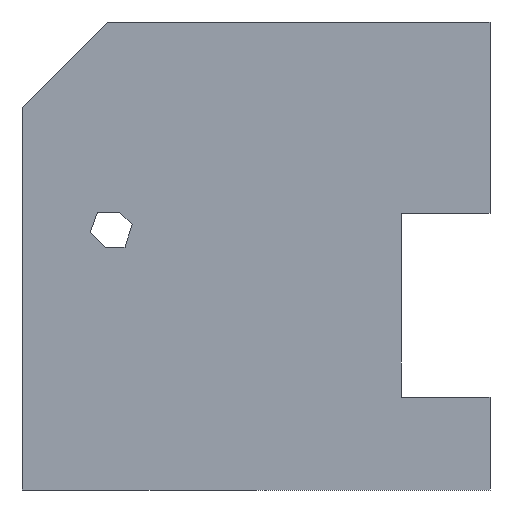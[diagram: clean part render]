
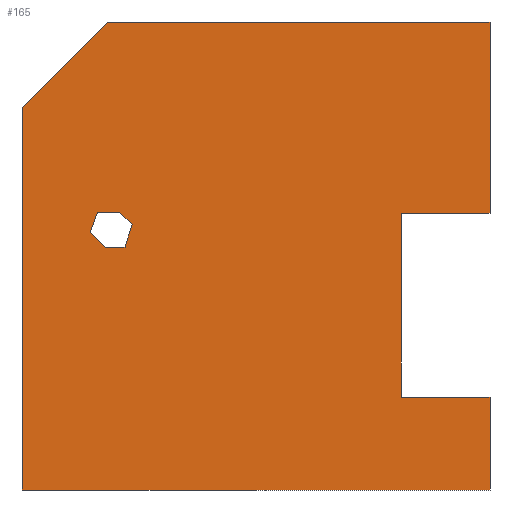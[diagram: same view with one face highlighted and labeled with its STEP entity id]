
A CAD part, left-side view. The second image highlights one B-rep face of the part: STEP entity #165.
In plain terms, the highlighted planar face has unit normal (-1, 0, 0).
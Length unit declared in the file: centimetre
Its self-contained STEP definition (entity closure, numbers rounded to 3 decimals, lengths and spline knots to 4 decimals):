
#12 = VECTOR ( 'NONE', #123, 100. ) ;
#13 = LINE ( 'NONE', #307, #256 ) ;
#14 = VERTEX_POINT ( 'NONE', #380 ) ;
#15 = VERTEX_POINT ( 'NONE', #555 ) ;
#27 = CARTESIAN_POINT ( 'NONE',  ( 0., 0., 590.9953 ) ) ;
#30 = CARTESIAN_POINT ( 'NONE',  ( 0., 0., 1000. ) ) ;
#37 = VECTOR ( 'NONE', #74, 100. ) ;
#45 = CARTESIAN_POINT ( 'NONE',  ( 0., 779.8998, 518.5298 ) ) ;
#53 = VECTOR ( 'NONE', #489, 100. ) ;
#55 = DIRECTION ( 'NONE',  ( 0., 0., -1. ) ) ;
#60 = VERTEX_POINT ( 'NONE', #27 ) ;
#61 = VECTOR ( 'NONE', #597, 100. ) ;
#65 = LINE ( 'NONE', #78, #584 ) ;
#74 = DIRECTION ( 'NONE',  ( 0., -1., 0. ) ) ;
#76 = EDGE_CURVE ( 'NONE', #14, #95, #305, .T. ) ;
#78 = CARTESIAN_POINT ( 'NONE',  ( 0., 1000., 1000. ) ) ;
#79 = VERTEX_POINT ( 'NONE', #569 ) ;
#80 = EDGE_CURVE ( 'NONE', #573, #536, #448, .T. ) ;
#90 = CARTESIAN_POINT ( 'NONE',  ( 0., 822.1729, 518.5298 ) ) ;
#95 = VERTEX_POINT ( 'NONE', #464 ) ;
#97 = DIRECTION ( 'NONE',  ( 0., 1., 0. ) ) ;
#106 = VERTEX_POINT ( 'NONE', #206 ) ;
#108 = ORIENTED_EDGE ( 'NONE', *, *, #173, .F. ) ;
#111 = DIRECTION ( 'NONE',  ( 0., 0.338, -0.941 ) ) ;
#118 = LINE ( 'NONE', #360, #292 ) ;
#119 = EDGE_CURVE ( 'NONE', #106, #289, #200, .T. ) ;
#123 = DIRECTION ( 'NONE',  ( 0., -0.707, -0.707 ) ) ;
#128 = CARTESIAN_POINT ( 'NONE',  ( 0., 764.4438, 566.9466 ) ) ;
#132 = DIRECTION ( 'NONE',  ( 0., -0.304, 0.953 ) ) ;
#133 = CARTESIAN_POINT ( 'NONE',  ( 0., 817.1879, 1000. ) ) ;
#137 = LINE ( 'NONE', #281, #460 ) ;
#141 = CARTESIAN_POINT ( 'NONE',  ( 0., 822.1729, 518.5298 ) ) ;
#145 = ORIENTED_EDGE ( 'NONE', *, *, #76, .F. ) ;
#148 = VERTEX_POINT ( 'NONE', #539 ) ;
#151 = ORIENTED_EDGE ( 'NONE', *, *, #268, .F. ) ;
#153 = CARTESIAN_POINT ( 'NONE',  ( 0., 764.4438, 566.9466 ) ) ;
#160 = DIRECTION ( 'NONE',  ( 0., 0.707, -0.707 ) ) ;
#165 = ADVANCED_FACE ( 'NONE', ( #601, #190 ), #335, .F. ) ;
#173 = EDGE_CURVE ( 'NONE', #295, #302, #242, .T. ) ;
#183 = ORIENTED_EDGE ( 'NONE', *, *, #119, .F. ) ;
#184 = DIRECTION ( 'NONE',  ( 1., 0., 0. ) ) ;
#188 = LINE ( 'NONE', #90, #37 ) ;
#190 = FACE_OUTER_BOUND ( 'NONE', #512, .T. ) ;
#195 = VECTOR ( 'NONE', #277, 100. ) ;
#198 = LINE ( 'NONE', #391, #532 ) ;
#200 = LINE ( 'NONE', #357, #12 ) ;
#206 = CARTESIAN_POINT ( 'NONE',  ( 0., 854.3667, 550.7235 ) ) ;
#216 = EDGE_CURVE ( 'NONE', #79, #148, #65, .T. ) ;
#224 = EDGE_CURVE ( 'NONE', #600, #14, #118, .T. ) ;
#236 = CARTESIAN_POINT ( 'NONE',  ( 0., 0., 1000. ) ) ;
#239 = CARTESIAN_POINT ( 'NONE',  ( 0., 838.9107, 593.717 ) ) ;
#242 = LINE ( 'NONE', #465, #475 ) ;
#256 = VECTOR ( 'NONE', #111, 100. ) ;
#268 = EDGE_CURVE ( 'NONE', #302, #60, #409, .T. ) ;
#275 = DIRECTION ( 'NONE',  ( 0., -1., 0. ) ) ;
#277 = DIRECTION ( 'NONE',  ( 0., 1., 0. ) ) ;
#279 = CARTESIAN_POINT ( 'NONE',  ( 0., 1000., 1000. ) ) ;
#281 = CARTESIAN_POINT ( 'NONE',  ( 0., 0., 590.9953 ) ) ;
#285 = VECTOR ( 'NONE', #371, 100. ) ;
#289 = VERTEX_POINT ( 'NONE', #141 ) ;
#292 = VECTOR ( 'NONE', #500, 100. ) ;
#295 = VERTEX_POINT ( 'NONE', #133 ) ;
#300 = EDGE_CURVE ( 'NONE', #15, #573, #544, .T. ) ;
#302 = VERTEX_POINT ( 'NONE', #236 ) ;
#305 = LINE ( 'NONE', #351, #592 ) ;
#307 = CARTESIAN_POINT ( 'NONE',  ( 0., 838.9107, 593.717 ) ) ;
#313 = EDGE_CURVE ( 'NONE', #60, #600, #137, .T. ) ;
#329 = CARTESIAN_POINT ( 'NONE',  ( 0., 0., 1000. ) ) ;
#332 = VERTEX_POINT ( 'NONE', #239 ) ;
#333 = EDGE_CURVE ( 'NONE', #536, #332, #472, .T. ) ;
#335 = PLANE ( 'NONE',  #390 ) ;
#336 = EDGE_LOOP ( 'NONE', ( #479, #406, #432, #346, #450, #183 ) ) ;
#346 = ORIENTED_EDGE ( 'NONE', *, *, #300, .F. ) ;
#347 = ORIENTED_EDGE ( 'NONE', *, *, #593, .F. ) ;
#351 = CARTESIAN_POINT ( 'NONE',  ( 0., 0., 198.4261 ) ) ;
#357 = CARTESIAN_POINT ( 'NONE',  ( 0., 854.3667, 550.7235 ) ) ;
#360 = CARTESIAN_POINT ( 'NONE',  ( 0., 189.9173, 198.4261 ) ) ;
#370 = VECTOR ( 'NONE', #132, 100. ) ;
#371 = DIRECTION ( 'NONE',  ( 0., -1., 0. ) ) ;
#380 = CARTESIAN_POINT ( 'NONE',  ( 0., 189.9173, 198.4261 ) ) ;
#385 = ORIENTED_EDGE ( 'NONE', *, *, #388, .T. ) ;
#388 = EDGE_CURVE ( 'NONE', #148, #531, #468, .T. ) ;
#390 = AXIS2_PLACEMENT_3D ( 'NONE', #279, #184, #55 ) ;
#391 = CARTESIAN_POINT ( 'NONE',  ( 0., 817.1879, 1000. ) ) ;
#393 = CARTESIAN_POINT ( 'NONE',  ( 0., 0., 0. ) ) ;
#394 = DIRECTION ( 'NONE',  ( 0., -1., 0. ) ) ;
#400 = EDGE_CURVE ( 'NONE', #289, #15, #188, .T. ) ;
#405 = DIRECTION ( 'NONE',  ( 0., 0., -1. ) ) ;
#406 = ORIENTED_EDGE ( 'NONE', *, *, #333, .F. ) ;
#407 = LINE ( 'NONE', #30, #543 ) ;
#409 = LINE ( 'NONE', #329, #61 ) ;
#410 = CARTESIAN_POINT ( 'NONE',  ( 0., 189.9173, 590.9953 ) ) ;
#413 = DIRECTION ( 'NONE',  ( 0., 0., -1. ) ) ;
#430 = ORIENTED_EDGE ( 'NONE', *, *, #224, .F. ) ;
#431 = CARTESIAN_POINT ( 'NONE',  ( 0., 791.2143, 593.717 ) ) ;
#432 = ORIENTED_EDGE ( 'NONE', *, *, #80, .F. ) ;
#436 = CARTESIAN_POINT ( 'NONE',  ( 0., 791.2143, 593.717 ) ) ;
#445 = EDGE_CURVE ( 'NONE', #332, #106, #13, .T. ) ;
#448 = LINE ( 'NONE', #153, #53 ) ;
#450 = ORIENTED_EDGE ( 'NONE', *, *, #400, .F. ) ;
#460 = VECTOR ( 'NONE', #97, 100. ) ;
#464 = CARTESIAN_POINT ( 'NONE',  ( 0., 0., 198.4261 ) ) ;
#465 = CARTESIAN_POINT ( 'NONE',  ( 0., 1000., 1000. ) ) ;
#468 = LINE ( 'NONE', #603, #285 ) ;
#472 = LINE ( 'NONE', #431, #195 ) ;
#475 = VECTOR ( 'NONE', #275, 100. ) ;
#477 = ORIENTED_EDGE ( 'NONE', *, *, #499, .T. ) ;
#479 = ORIENTED_EDGE ( 'NONE', *, *, #445, .F. ) ;
#489 = DIRECTION ( 'NONE',  ( 0., 0.707, 0.707 ) ) ;
#495 = ORIENTED_EDGE ( 'NONE', *, *, #313, .F. ) ;
#499 = EDGE_CURVE ( 'NONE', #295, #79, #198, .T. ) ;
#500 = DIRECTION ( 'NONE',  ( 0., 0., -1. ) ) ;
#512 = EDGE_LOOP ( 'NONE', ( #347, #145, #430, #495, #151, #108, #477, #562, #385 ) ) ;
#531 = VERTEX_POINT ( 'NONE', #393 ) ;
#532 = VECTOR ( 'NONE', #160, 100. ) ;
#536 = VERTEX_POINT ( 'NONE', #436 ) ;
#539 = CARTESIAN_POINT ( 'NONE',  ( 0., 1000., 0. ) ) ;
#543 = VECTOR ( 'NONE', #413, 100. ) ;
#544 = LINE ( 'NONE', #45, #370 ) ;
#555 = CARTESIAN_POINT ( 'NONE',  ( 0., 779.8998, 518.5298 ) ) ;
#562 = ORIENTED_EDGE ( 'NONE', *, *, #216, .T. ) ;
#569 = CARTESIAN_POINT ( 'NONE',  ( 0., 1000., 817.1879 ) ) ;
#573 = VERTEX_POINT ( 'NONE', #128 ) ;
#584 = VECTOR ( 'NONE', #405, 100. ) ;
#592 = VECTOR ( 'NONE', #394, 100. ) ;
#593 = EDGE_CURVE ( 'NONE', #95, #531, #407, .T. ) ;
#597 = DIRECTION ( 'NONE',  ( 0., 0., -1. ) ) ;
#600 = VERTEX_POINT ( 'NONE', #410 ) ;
#601 = FACE_BOUND ( 'NONE', #336, .T. ) ;
#603 = CARTESIAN_POINT ( 'NONE',  ( 0., 1000., 0. ) ) ;
